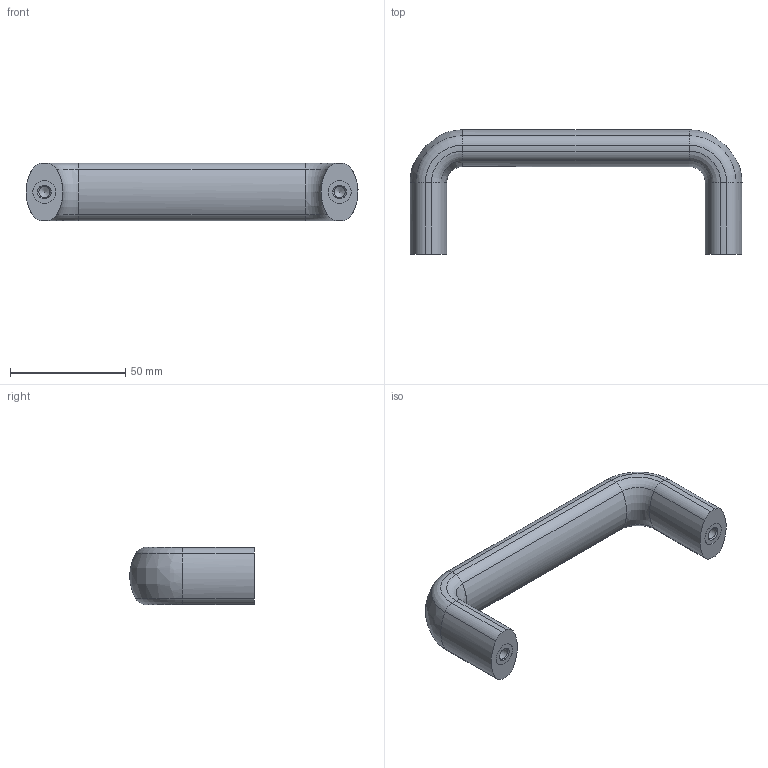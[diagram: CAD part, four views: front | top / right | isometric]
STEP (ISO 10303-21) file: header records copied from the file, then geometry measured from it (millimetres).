
FILE_DESCRIPTION( ( 'STEP AP203' ), '1' );
FILE_NAME( 'C:/Temp/Ganter_Step_05_03_2020/data/1_2/gn_564/Cabinet U-handle GN 564-25-128.stp', '2020-03-05T10:08:38', ( 'License CC BY-ND 4.0' ), ( 'CADENAS' ), ' ', 'PARTsolutions', ' ' );
FILE_SCHEMA( ( 'CONFIG_CONTROL_DESIGN' ) );
Length unit declared in the file: millimetre
Products named in the file (1): _Cabinet U-handle GN 564-25-128
Bounding box: 143.93 x 53.99 x 24.99 mm (x, y, z)
Volume: 66408.3 mm3; surface area: 14748.1 mm2
Topology: 1 solids, 1 shells, 58 faces, 138 edges, 84 vertices
Faces by surface type: cylinder 28, torus 14, plane 10, cone 4, bspline 2
Full cylindrical faces by diameter (mm): 4.917 x2, 10 x2
Entity records: 1754 total; most frequent: CARTESIAN_POINT 367, DIRECTION 318, ORIENTED_EDGE 256, AXIS2_PLACEMENT_3D 147, EDGE_CURVE 128, CIRCLE 90, VERTEX_POINT 84, EDGE_LOOP 68
